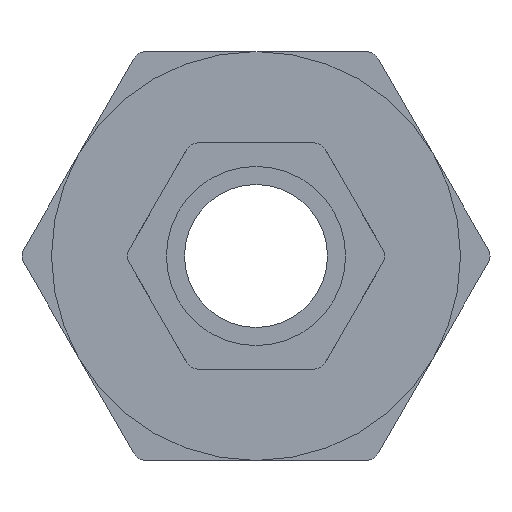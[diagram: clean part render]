
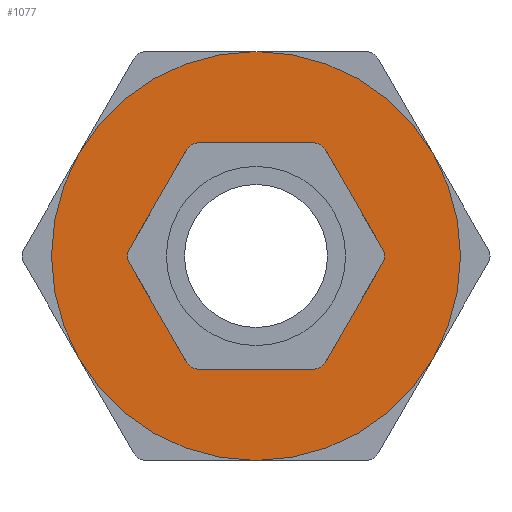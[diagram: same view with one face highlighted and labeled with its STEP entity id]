
A CAD part, left-side view. The second image highlights one B-rep face of the part: STEP entity #1077.
In plain terms, the highlighted planar face has unit normal (-1, 0, 0).
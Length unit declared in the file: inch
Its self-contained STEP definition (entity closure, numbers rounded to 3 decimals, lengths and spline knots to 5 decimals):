
#14=FACE_BOUND('',#184,.T.);
#62=CIRCLE('',#1176,1.5);
#63=CIRCLE('',#1177,0.83);
#124=FACE_OUTER_BOUND('',#183,.T.);
#183=EDGE_LOOP('',(#738));
#184=EDGE_LOOP('',(#739));
#439=VERTEX_POINT('',#1695);
#440=VERTEX_POINT('',#1697);
#556=EDGE_CURVE('',#439,#439,#62,.T.);
#557=EDGE_CURVE('',#440,#440,#63,.T.);
#738=ORIENTED_EDGE('',*,*,#556,.T.);
#739=ORIENTED_EDGE('',*,*,#557,.F.);
#975=PLANE('',#1175);
#1077=ADVANCED_FACE('',(#124,#14),#975,.T.);
#1175=AXIS2_PLACEMENT_3D('',#1694,#1366,#1367);
#1176=AXIS2_PLACEMENT_3D('',#1696,#1368,#1369);
#1177=AXIS2_PLACEMENT_3D('',#1698,#1370,#1371);
#1366=DIRECTION('center_axis',(-1.,0.,0.));
#1367=DIRECTION('ref_axis',(0.,0.,1.));
#1368=DIRECTION('center_axis',(-1.,0.,0.));
#1369=DIRECTION('ref_axis',(0.,0.,-1.));
#1370=DIRECTION('center_axis',(-1.,0.,0.));
#1371=DIRECTION('ref_axis',(0.,1.,0.));
#1694=CARTESIAN_POINT('Origin',(0.775,0.,0.));
#1695=CARTESIAN_POINT('',(0.775,0.,1.5));
#1696=CARTESIAN_POINT('Origin',(0.775,0.,0.));
#1697=CARTESIAN_POINT('',(0.775,-0.83,0.));
#1698=CARTESIAN_POINT('Origin',(0.775,0.,0.));
